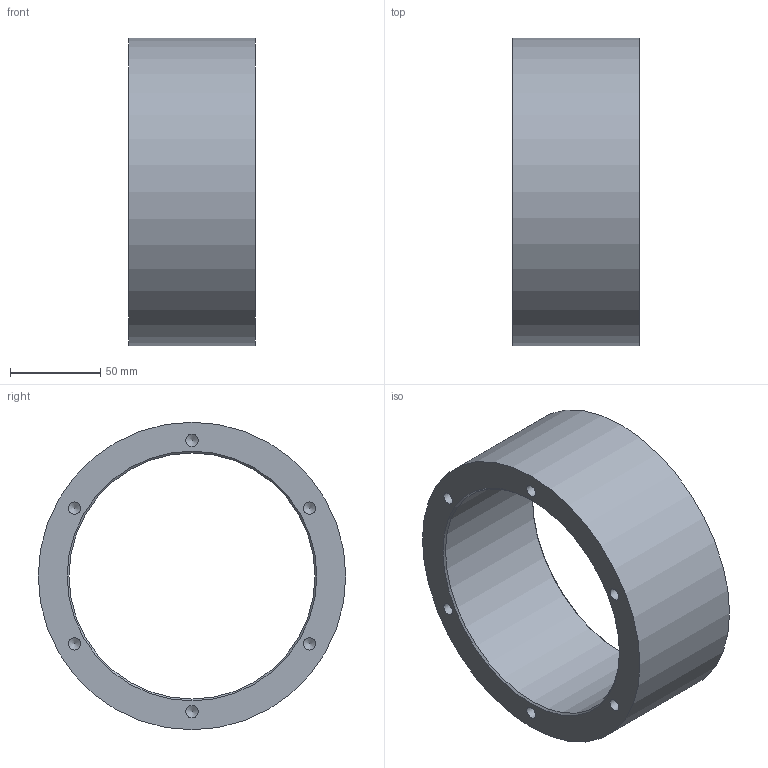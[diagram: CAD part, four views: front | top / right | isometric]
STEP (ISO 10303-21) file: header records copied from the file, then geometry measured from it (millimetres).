
FILE_DESCRIPTION(('Open CASCADE Model'),'2;1');
FILE_NAME('Open CASCADE Shape Model','2026-10-02T07:04:58',('Author'),( 'Open CASCADE'),'Open CASCADE STEP processor 7.9','Open CASCADE 7.9' ,'Unknown');
FILE_SCHEMA(('AUTOMOTIVE_DESIGN { 1 0 10303 214 1 1 1 1 }'));
Length unit declared in the file: millimetre
Products named in the file (1): Open CASCADE STEP translator 7.9 2
Bounding box: 70 x 170 x 170 mm (x, y, z)
Volume: 559932.8 mm3; surface area: 89875.3 mm2
Topology: 1 solids, 1 shells, 30 faces, 70 edges, 42 vertices
Faces by surface type: cylinder 14, cone 14, plane 2
Full cylindrical faces by diameter (mm): 6.8 x12, 136 x1, 170 x1
Entity records: 1560 total; most frequent: DIRECTION 266, CARTESIAN_POINT 247, LINE 128, VECTOR 128, ORIENTED_EDGE 116, PCURVE 116, DEFINITIONAL_REPRESENTATION 116, AXIS2_PLACEMENT_3D 61
